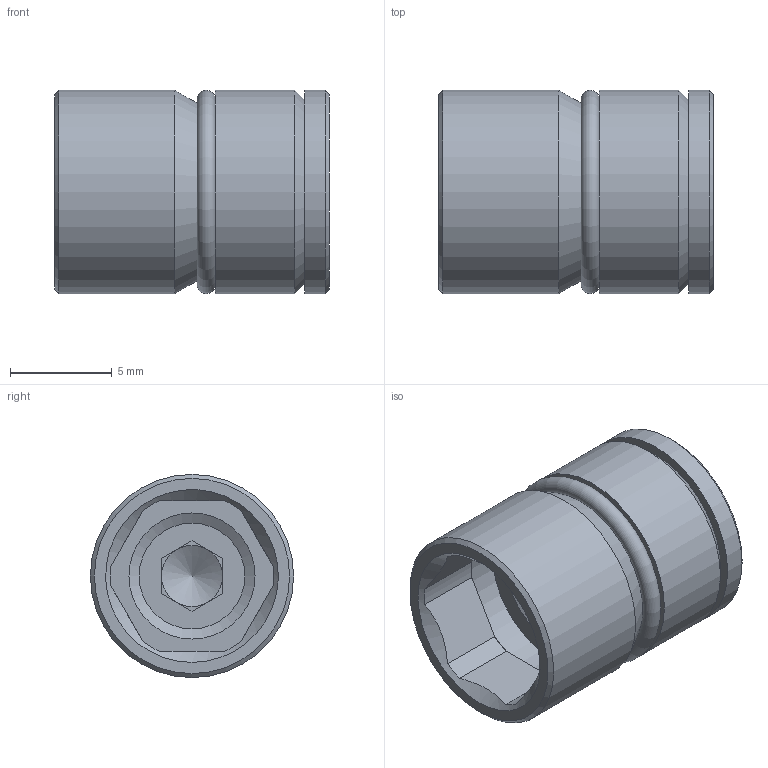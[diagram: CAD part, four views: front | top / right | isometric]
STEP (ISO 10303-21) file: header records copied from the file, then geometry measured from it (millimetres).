
FILE_DESCRIPTION( ( 'STEP AP214' ), '1' );
FILE_NAME( 'p:/temp/worker_257/temp/exporttempdir_4644_214_nfqjE/format_0/TRI-10C.stp', '2021-02-05T19:26:59', ( 'License CC BY-ND 4.0' ), ( 'CADENAS' ), ' ', 'PARTsolutions', ' ' );
FILE_SCHEMA( ( 'AUTOMOTIVE_DESIGN { 1 0 10303 214 1 1 1 1 }' ) );
Length unit declared in the file: millimetre
Products named in the file (1): _TRI-10C
Bounding box: 13.5 x 10 x 10 mm (x, y, z)
Volume: 743 mm3; surface area: 826.4 mm2
Topology: 1 solids, 1 shells, 44 faces, 100 edges, 63 vertices
Faces by surface type: plane 25, cylinder 11, cone 7, torus 1
Full cylindrical faces by diameter (mm): 3 x1, 8.1 x1, 10 x3
Entity records: 1548 total; most frequent: CARTESIAN_POINT 243, DIRECTION 202, ORIENTED_EDGE 166, EDGE_CURVE 83, AXIS2_PLACEMENT_3D 80, EDGE_LOOP 62, VERTEX_POINT 61, FACE_OUTER_BOUND 50
